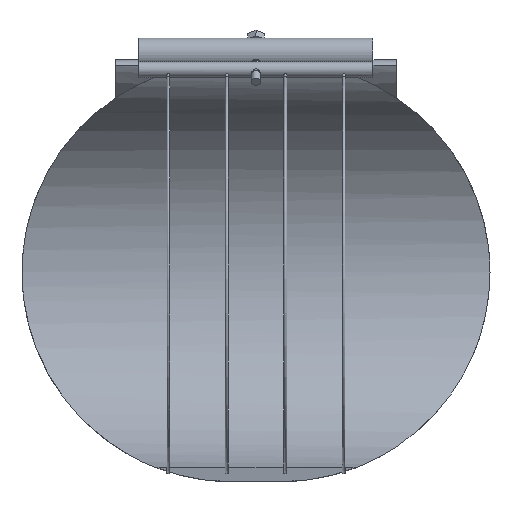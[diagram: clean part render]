
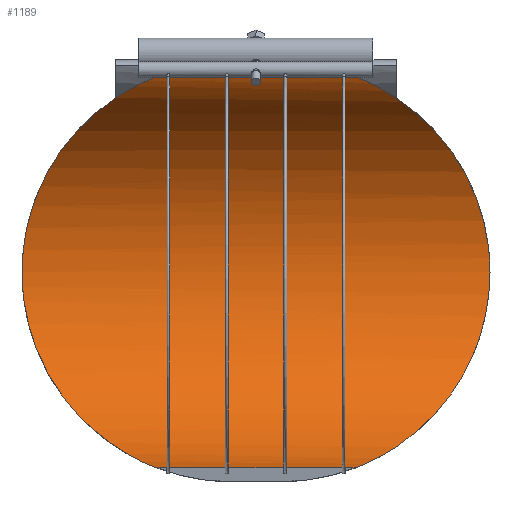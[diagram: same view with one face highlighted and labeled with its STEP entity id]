
A CAD part, front view. The second image highlights one B-rep face of the part: STEP entity #1189.
In plain terms, the highlighted cylindrical face has radius 125 mm (diameter 250 mm), a partial arc.
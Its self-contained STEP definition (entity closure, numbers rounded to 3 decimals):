
#125=FACE_OUTER_BOUND('',#203,.T.);
#203=EDGE_LOOP('',(#1060,#1061,#1062,#1063,#1064,#1065,#1066,#1067,#1068,
#1069));
#254=B_SPLINE_CURVE_WITH_KNOTS('',3,(#2682,#2683,#2684,#2685,#2686,#2687,
#2688,#2689,#2690,#2691,#2692,#2693,#2694,#2695,#2696,#2697,#2698,#2699,
#2700,#2701),.UNSPECIFIED.,.F.,.F.,(4,2,2,2,2,2,2,2,2,4),(45.936,
46.423,47.867,49.311,52.199,55.087,
57.641,60.195,62.749,65.303),
 .UNSPECIFIED.);
#255=B_SPLINE_CURVE_WITH_KNOTS('',3,(#2702,#2703,#2704,#2705,#2706,#2707,
#2708,#2709,#2710,#2711,#2712,#2713,#2714,#2715,#2716,#2717,#2718,#2719,
#2720,#2721),.UNSPECIFIED.,.F.,.F.,(4,2,2,2,2,2,2,2,2,4),(65.303,
67.856,70.41,72.964,75.518,78.406,
81.294,82.738,84.182,84.669),
 .UNSPECIFIED.);
#260=B_SPLINE_CURVE_WITH_KNOTS('',3,(#2833,#2834,#2835,#2836,#2837,#2838,
#2839,#2840,#2841,#2842,#2843,#2844,#2845,#2846,#2847,#2848,#2849,#2850,
#2851,#2852),.UNSPECIFIED.,.F.,.F.,(4,2,2,2,2,2,2,2,2,4),(2.401,
2.888,4.332,5.776,8.664,11.552,
14.106,16.66,19.214,21.768),
 .UNSPECIFIED.);
#261=B_SPLINE_CURVE_WITH_KNOTS('',3,(#2854,#2855,#2856,#2857,#2858,#2859,
#2860,#2861,#2862,#2863,#2864,#2865,#2866,#2867,#2868,#2869,#2870,#2871,
#2872,#2873),.UNSPECIFIED.,.F.,.F.,(4,2,2,2,2,2,2,2,2,4),(21.768,
24.321,26.875,29.429,31.983,34.871,
37.759,39.203,40.647,41.134),
 .UNSPECIFIED.);
#338=LINE('',#1987,#399);
#339=LINE('',#1990,#400);
#340=LINE('',#1993,#401);
#341=LINE('',#1995,#402);
#342=LINE('',#1996,#403);
#386=LINE('',#2915,#447);
#399=VECTOR('',#1402,10.);
#400=VECTOR('',#1405,10.);
#401=VECTOR('',#1408,10.);
#402=VECTOR('',#1411,10.);
#403=VECTOR('',#1412,10.);
#447=VECTOR('',#1648,10.);
#477=VERTEX_POINT('',#1975);
#479=VERTEX_POINT('',#1980);
#481=VERTEX_POINT('',#1984);
#482=VERTEX_POINT('',#1986);
#483=VERTEX_POINT('',#1989);
#484=VERTEX_POINT('',#1992);
#552=VERTEX_POINT('',#2679);
#553=VERTEX_POINT('',#2681);
#558=VERTEX_POINT('',#2832);
#559=VERTEX_POINT('',#2853);
#602=EDGE_CURVE('',#482,#481,#338,.T.);
#604=EDGE_CURVE('',#483,#482,#339,.T.);
#606=EDGE_CURVE('',#484,#483,#340,.T.);
#608=EDGE_CURVE('',#477,#484,#341,.T.);
#609=EDGE_CURVE('',#479,#477,#342,.T.);
#725=EDGE_CURVE('',#552,#553,#254,.T.);
#726=EDGE_CURVE('',#553,#481,#255,.T.);
#731=EDGE_CURVE('',#479,#558,#260,.T.);
#732=EDGE_CURVE('',#558,#559,#261,.T.);
#736=EDGE_CURVE('',#552,#559,#386,.T.);
#1060=ORIENTED_EDGE('',*,*,#731,.F.);
#1061=ORIENTED_EDGE('',*,*,#609,.T.);
#1062=ORIENTED_EDGE('',*,*,#608,.T.);
#1063=ORIENTED_EDGE('',*,*,#606,.T.);
#1064=ORIENTED_EDGE('',*,*,#604,.T.);
#1065=ORIENTED_EDGE('',*,*,#602,.T.);
#1066=ORIENTED_EDGE('',*,*,#726,.F.);
#1067=ORIENTED_EDGE('',*,*,#725,.F.);
#1068=ORIENTED_EDGE('',*,*,#736,.T.);
#1069=ORIENTED_EDGE('',*,*,#732,.F.);
#1130=CYLINDRICAL_SURFACE('',#1337,125.);
#1189=ADVANCED_FACE('',(#125),#1130,.F.);
#1337=AXIS2_PLACEMENT_3D('',#2914,#1646,#1647);
#1402=DIRECTION('',(1.,0.,0.));
#1405=DIRECTION('',(1.,0.,0.));
#1408=DIRECTION('',(1.,0.,0.));
#1411=DIRECTION('',(1.,0.,0.));
#1412=DIRECTION('',(1.,0.,0.));
#1646=DIRECTION('center_axis',(1.,0.,0.));
#1647=DIRECTION('ref_axis',(0.,1.,0.));
#1648=DIRECTION('',(-1.,0.,0.));
#1975=CARTESIAN_POINT('',(-55.313,21.706,-123.101));
#1980=CARTESIAN_POINT('',(-63.083,21.706,-123.101));
#1984=CARTESIAN_POINT('',(63.083,21.706,-123.101));
#1986=CARTESIAN_POINT('',(55.313,21.706,-123.101));
#1987=CARTESIAN_POINT('',(0.,21.706,-123.101));
#1989=CARTESIAN_POINT('',(18.438,21.706,-123.101));
#1990=CARTESIAN_POINT('',(0.,21.706,-123.101));
#1992=CARTESIAN_POINT('',(-18.438,21.706,-123.101));
#1993=CARTESIAN_POINT('',(0.,21.706,-123.101));
#1995=CARTESIAN_POINT('',(0.,21.706,-123.101));
#1996=CARTESIAN_POINT('',(0.,21.706,-123.101));
#2679=CARTESIAN_POINT('',(63.083,21.706,123.101));
#2681=CARTESIAN_POINT('',(147.5,125.,0.));
#2682=CARTESIAN_POINT('Ctrl Pts',(63.083,21.706,123.101));
#2683=CARTESIAN_POINT('Ctrl Pts',(63.701,23.061,122.862));
#2684=CARTESIAN_POINT('Ctrl Pts',(64.359,24.402,122.603));
#2685=CARTESIAN_POINT('Ctrl Pts',(67.098,29.673,121.494));
#2686=CARTESIAN_POINT('Ctrl Pts',(69.428,33.509,120.49));
#2687=CARTESIAN_POINT('Ctrl Pts',(74.421,41.06,118.13));
#2688=CARTESIAN_POINT('Ctrl Pts',(77.087,44.775,116.774));
#2689=CARTESIAN_POINT('Ctrl Pts',(85.378,55.782,112.146));
#2690=CARTESIAN_POINT('Ctrl Pts',(91.246,62.886,108.332));
#2691=CARTESIAN_POINT('Ctrl Pts',(102.728,76.323,99.324));
#2692=CARTESIAN_POINT('Ctrl Pts',(108.349,82.649,94.127));
#2693=CARTESIAN_POINT('Ctrl Pts',(118.104,93.464,83.313));
#2694=CARTESIAN_POINT('Ctrl Pts',(122.634,98.404,77.485));
#2695=CARTESIAN_POINT('Ctrl Pts',(130.923,107.366,64.496));
#2696=CARTESIAN_POINT('Ctrl Pts',(134.681,111.388,57.334));
#2697=CARTESIAN_POINT('Ctrl Pts',(140.897,118.013,42.04));
#2698=CARTESIAN_POINT('Ctrl Pts',(143.36,120.623,33.889));
#2699=CARTESIAN_POINT('Ctrl Pts',(146.663,124.117,17.126));
#2700=CARTESIAN_POINT('Ctrl Pts',(147.5,125.,8.513));
#2701=CARTESIAN_POINT('Ctrl Pts',(147.5,125.,0.));
#2702=CARTESIAN_POINT('Ctrl Pts',(147.5,125.,0.));
#2703=CARTESIAN_POINT('Ctrl Pts',(147.5,125.,-8.513));
#2704=CARTESIAN_POINT('Ctrl Pts',(146.663,124.117,-17.126));
#2705=CARTESIAN_POINT('Ctrl Pts',(143.36,120.623,-33.889));
#2706=CARTESIAN_POINT('Ctrl Pts',(140.897,118.013,-42.04));
#2707=CARTESIAN_POINT('Ctrl Pts',(134.681,111.388,-57.334));
#2708=CARTESIAN_POINT('Ctrl Pts',(130.923,107.366,-64.496));
#2709=CARTESIAN_POINT('Ctrl Pts',(122.634,98.404,-77.485));
#2710=CARTESIAN_POINT('Ctrl Pts',(118.104,93.464,-83.313));
#2711=CARTESIAN_POINT('Ctrl Pts',(108.349,82.649,-94.127));
#2712=CARTESIAN_POINT('Ctrl Pts',(102.728,76.323,-99.324));
#2713=CARTESIAN_POINT('Ctrl Pts',(91.246,62.886,-108.332));
#2714=CARTESIAN_POINT('Ctrl Pts',(85.378,55.782,-112.146));
#2715=CARTESIAN_POINT('Ctrl Pts',(77.087,44.775,-116.774));
#2716=CARTESIAN_POINT('Ctrl Pts',(74.421,41.06,-118.13));
#2717=CARTESIAN_POINT('Ctrl Pts',(69.428,33.509,-120.49));
#2718=CARTESIAN_POINT('Ctrl Pts',(67.098,29.673,-121.494));
#2719=CARTESIAN_POINT('Ctrl Pts',(64.359,24.402,-122.603));
#2720=CARTESIAN_POINT('Ctrl Pts',(63.701,23.061,-122.862));
#2721=CARTESIAN_POINT('Ctrl Pts',(63.083,21.706,-123.101));
#2832=CARTESIAN_POINT('',(-147.5,125.,0.));
#2833=CARTESIAN_POINT('Ctrl Pts',(-63.083,21.706,-123.101));
#2834=CARTESIAN_POINT('Ctrl Pts',(-63.701,23.061,-122.862));
#2835=CARTESIAN_POINT('Ctrl Pts',(-64.359,24.402,-122.603));
#2836=CARTESIAN_POINT('Ctrl Pts',(-67.098,29.673,-121.494));
#2837=CARTESIAN_POINT('Ctrl Pts',(-69.428,33.509,-120.49));
#2838=CARTESIAN_POINT('Ctrl Pts',(-74.421,41.06,-118.13));
#2839=CARTESIAN_POINT('Ctrl Pts',(-77.087,44.775,-116.774));
#2840=CARTESIAN_POINT('Ctrl Pts',(-85.378,55.782,-112.146));
#2841=CARTESIAN_POINT('Ctrl Pts',(-91.246,62.886,-108.332));
#2842=CARTESIAN_POINT('Ctrl Pts',(-102.728,76.323,-99.324));
#2843=CARTESIAN_POINT('Ctrl Pts',(-108.349,82.649,-94.127));
#2844=CARTESIAN_POINT('Ctrl Pts',(-118.104,93.464,-83.313));
#2845=CARTESIAN_POINT('Ctrl Pts',(-122.634,98.404,-77.485));
#2846=CARTESIAN_POINT('Ctrl Pts',(-130.923,107.366,-64.496));
#2847=CARTESIAN_POINT('Ctrl Pts',(-134.681,111.388,-57.334));
#2848=CARTESIAN_POINT('Ctrl Pts',(-140.897,118.013,-42.04));
#2849=CARTESIAN_POINT('Ctrl Pts',(-143.36,120.623,-33.889));
#2850=CARTESIAN_POINT('Ctrl Pts',(-146.663,124.117,-17.126));
#2851=CARTESIAN_POINT('Ctrl Pts',(-147.5,125.,-8.513));
#2852=CARTESIAN_POINT('Ctrl Pts',(-147.5,125.,0.));
#2853=CARTESIAN_POINT('',(-63.083,21.706,123.101));
#2854=CARTESIAN_POINT('Ctrl Pts',(-147.5,125.,0.));
#2855=CARTESIAN_POINT('Ctrl Pts',(-147.5,125.,8.513));
#2856=CARTESIAN_POINT('Ctrl Pts',(-146.663,124.117,17.126));
#2857=CARTESIAN_POINT('Ctrl Pts',(-143.36,120.623,33.889));
#2858=CARTESIAN_POINT('Ctrl Pts',(-140.897,118.013,42.04));
#2859=CARTESIAN_POINT('Ctrl Pts',(-134.681,111.388,57.334));
#2860=CARTESIAN_POINT('Ctrl Pts',(-130.923,107.366,64.496));
#2861=CARTESIAN_POINT('Ctrl Pts',(-122.634,98.404,77.485));
#2862=CARTESIAN_POINT('Ctrl Pts',(-118.104,93.464,83.313));
#2863=CARTESIAN_POINT('Ctrl Pts',(-108.349,82.649,94.127));
#2864=CARTESIAN_POINT('Ctrl Pts',(-102.728,76.323,99.324));
#2865=CARTESIAN_POINT('Ctrl Pts',(-91.246,62.886,108.332));
#2866=CARTESIAN_POINT('Ctrl Pts',(-85.378,55.782,112.146));
#2867=CARTESIAN_POINT('Ctrl Pts',(-77.087,44.775,116.774));
#2868=CARTESIAN_POINT('Ctrl Pts',(-74.421,41.06,118.13));
#2869=CARTESIAN_POINT('Ctrl Pts',(-69.428,33.509,120.49));
#2870=CARTESIAN_POINT('Ctrl Pts',(-67.098,29.673,121.494));
#2871=CARTESIAN_POINT('Ctrl Pts',(-64.359,24.402,122.603));
#2872=CARTESIAN_POINT('Ctrl Pts',(-63.701,23.061,122.862));
#2873=CARTESIAN_POINT('Ctrl Pts',(-63.083,21.706,123.101));
#2914=CARTESIAN_POINT('Origin',(0.,0.,0.));
#2915=CARTESIAN_POINT('',(0.,21.706,123.101));
